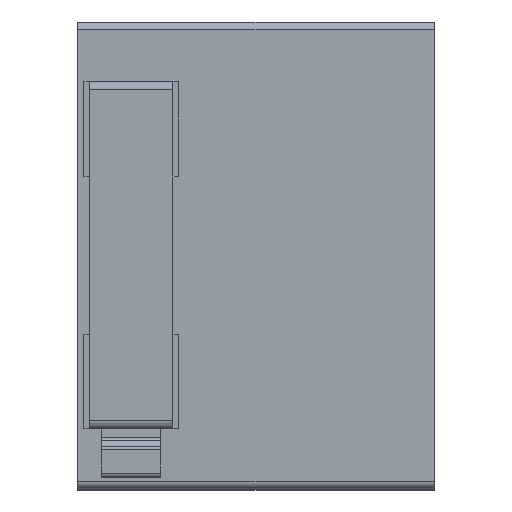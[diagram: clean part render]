
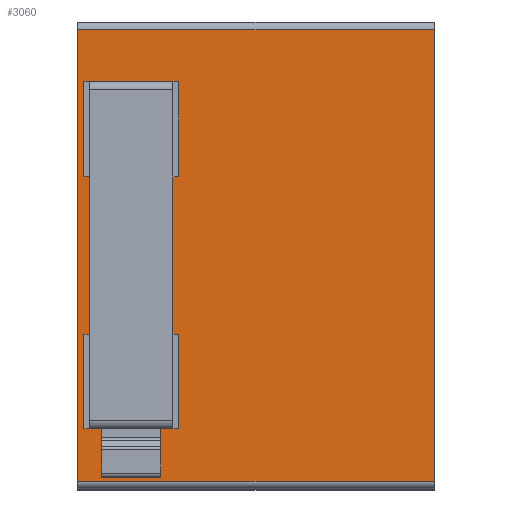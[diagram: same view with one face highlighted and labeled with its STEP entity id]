
A CAD part, top view. The second image highlights one B-rep face of the part: STEP entity #3060.
In plain terms, the highlighted planar face has unit normal (0, 0, 1).
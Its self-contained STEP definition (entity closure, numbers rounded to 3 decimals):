
#102 = EDGE_CURVE ( 'NONE', #10304, #2195, #5215, .T. ) ;
#520 = EDGE_CURVE ( 'NONE', #1650, #8245, #10530, .T. ) ;
#819 = DIRECTION ( 'NONE',  ( 0., -1., 0. ) ) ;
#1650 = VERTEX_POINT ( 'NONE', #3918 ) ;
#1894 = LINE ( 'NONE', #8878, #8530 ) ;
#2195 = VERTEX_POINT ( 'NONE', #6568 ) ;
#2388 = LINE ( 'NONE', #3076, #6705 ) ;
#2686 = VECTOR ( 'NONE', #4168, 1000. ) ;
#2705 = FACE_OUTER_BOUND ( 'NONE', #4564, .T. ) ;
#2890 = ORIENTED_EDGE ( 'NONE', *, *, #6714, .T. ) ;
#3060 = ADVANCED_FACE ( 'NONE', ( #2705 ), #9956, .T. ) ;
#3076 = CARTESIAN_POINT ( 'NONE',  ( -24.53, -15.342, 1.13 ) ) ;
#3098 = VECTOR ( 'NONE', #6274, 1000. ) ;
#3446 = ORIENTED_EDGE ( 'NONE', *, *, #102, .T. ) ;
#3918 = CARTESIAN_POINT ( 'NONE',  ( -24.53, -43.842, 1.13 ) ) ;
#4106 = CARTESIAN_POINT ( 'NONE',  ( 20.47, -43.842, 1.13 ) ) ;
#4168 = DIRECTION ( 'NONE',  ( 1., 0., 0. ) ) ;
#4564 = EDGE_LOOP ( 'NONE', ( #6755, #3446, #2890, #10204 ) ) ;
#4883 = EDGE_CURVE ( 'NONE', #8245, #10304, #1894, .T. ) ;
#5215 = LINE ( 'NONE', #6204, #3098 ) ;
#6204 = CARTESIAN_POINT ( 'NONE',  ( 20.47, 13.158, 1.13 ) ) ;
#6274 = DIRECTION ( 'NONE',  ( -1., 0., 0. ) ) ;
#6568 = CARTESIAN_POINT ( 'NONE',  ( -24.53, 13.158, 1.13 ) ) ;
#6705 = VECTOR ( 'NONE', #819, 1000. ) ;
#6714 = EDGE_CURVE ( 'NONE', #2195, #1650, #2388, .T. ) ;
#6755 = ORIENTED_EDGE ( 'NONE', *, *, #4883, .T. ) ;
#6871 = CARTESIAN_POINT ( 'NONE',  ( 20.47, -43.842, 1.13 ) ) ;
#8245 = VERTEX_POINT ( 'NONE', #6871 ) ;
#8530 = VECTOR ( 'NONE', #8876, 1000. ) ;
#8876 = DIRECTION ( 'NONE',  ( 0., 1., 0. ) ) ;
#8878 = CARTESIAN_POINT ( 'NONE',  ( 20.47, -15.342, 1.13 ) ) ;
#9474 = AXIS2_PLACEMENT_3D ( 'NONE', #9995, #9925, #9906 ) ;
#9832 = CARTESIAN_POINT ( 'NONE',  ( 20.47, 13.158, 1.13 ) ) ;
#9906 = DIRECTION ( 'NONE',  ( 0., -1., 0. ) ) ;
#9925 = DIRECTION ( 'NONE',  ( 0., 0., 1. ) ) ;
#9956 = PLANE ( 'NONE',  #9474 ) ;
#9995 = CARTESIAN_POINT ( 'NONE',  ( 20.47, -15.342, 1.13 ) ) ;
#10204 = ORIENTED_EDGE ( 'NONE', *, *, #520, .T. ) ;
#10304 = VERTEX_POINT ( 'NONE', #9832 ) ;
#10530 = LINE ( 'NONE', #4106, #2686 ) ;
